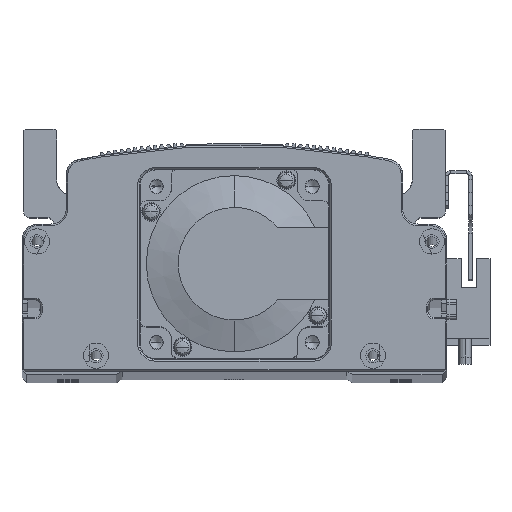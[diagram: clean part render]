
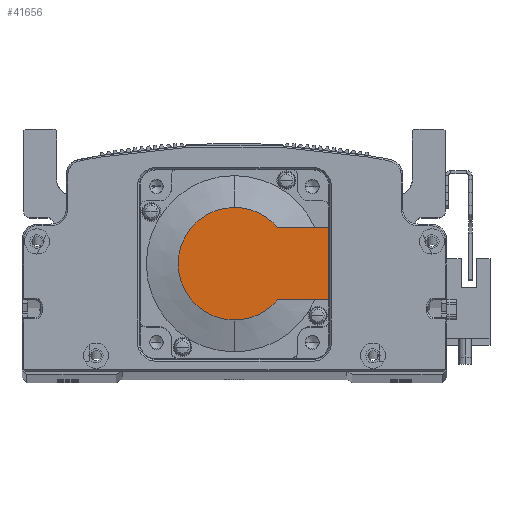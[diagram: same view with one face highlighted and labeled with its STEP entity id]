
A CAD part, top view. The second image highlights one B-rep face of the part: STEP entity #41656.
In plain terms, the highlighted planar face has unit normal (0, 0, 1) as drawn and (-1, 0, 0) by its records, which use the part's own axes.
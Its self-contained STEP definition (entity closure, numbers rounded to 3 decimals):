
#3310 = VERTEX_POINT ( 'NONE', #25634 ) ;
#3710 = VECTOR ( 'NONE', #53036, 1000. ) ;
#4571 = VERTEX_POINT ( 'NONE', #66932 ) ;
#4751 = CARTESIAN_POINT ( 'NONE',  ( -118.5, 0., 0. ) ) ;
#6743 = CARTESIAN_POINT ( 'NONE',  ( -118.5, 13.735, -11.45 ) ) ;
#8282 = DIRECTION ( 'NONE',  ( -1., 0., 0. ) ) ;
#8672 = CARTESIAN_POINT ( 'NONE',  ( -118.5, 0., 11.45 ) ) ;
#9836 = VECTOR ( 'NONE', #63504, 1000. ) ;
#10072 = DIRECTION ( 'NONE',  ( 0., 0., -1. ) ) ;
#11803 = FACE_OUTER_BOUND ( 'NONE', #71899, .T. ) ;
#13517 = ORIENTED_EDGE ( 'NONE', *, *, #58738, .F. ) ;
#15563 = EDGE_CURVE ( 'NONE', #44050, #61421, #50561, .T. ) ;
#16014 = PLANE ( 'NONE',  #18977 ) ;
#17468 = CARTESIAN_POINT ( 'NONE',  ( -118.5, 30., -11.45 ) ) ;
#18913 = VERTEX_POINT ( 'NONE', #26224 ) ;
#18977 = AXIS2_PLACEMENT_3D ( 'NONE', #54872, #56064, #55586 ) ;
#19378 = LINE ( 'NONE', #56987, #9836 ) ;
#24664 = ORIENTED_EDGE ( 'NONE', *, *, #64245, .T. ) ;
#24993 = CARTESIAN_POINT ( 'NONE',  ( -118.5, 0., 0. ) ) ;
#25275 = ORIENTED_EDGE ( 'NONE', *, *, #39746, .T. ) ;
#25403 = ORIENTED_EDGE ( 'NONE', *, *, #26142, .F. ) ;
#25634 = CARTESIAN_POINT ( 'NONE',  ( -118.5, 0., 17.881 ) ) ;
#26142 = EDGE_CURVE ( 'NONE', #44050, #18913, #19378, .T. ) ;
#26224 = CARTESIAN_POINT ( 'NONE',  ( -118.5, 30., 11.45 ) ) ;
#26476 = ORIENTED_EDGE ( 'NONE', *, *, #53275, .T. ) ;
#27746 = CIRCLE ( 'NONE', #43524, 17.881 ) ;
#31103 = CARTESIAN_POINT ( 'NONE',  ( -118.5, -8.941, -11.45 ) ) ;
#33043 = DIRECTION ( 'NONE',  ( -1., 0., 0. ) ) ;
#33336 = CARTESIAN_POINT ( 'NONE',  ( -118.5, 13.735, 11.45 ) ) ;
#35217 = VERTEX_POINT ( 'NONE', #33336 ) ;
#35280 = DIRECTION ( 'NONE',  ( 0., 0., -1. ) ) ;
#35739 = CARTESIAN_POINT ( 'NONE',  ( -118.5, 0., 0. ) ) ;
#39746 = EDGE_CURVE ( 'NONE', #3310, #35217, #27746, .T. ) ;
#41606 = DIRECTION ( 'NONE',  ( -1., 0., 0. ) ) ;
#41656 = ADVANCED_FACE ( 'NONE', ( #11803 ), #16014, .T. ) ;
#43524 = AXIS2_PLACEMENT_3D ( 'NONE', #4751, #33043, #10072 ) ;
#44050 = VERTEX_POINT ( 'NONE', #17468 ) ;
#46967 = ORIENTED_EDGE ( 'NONE', *, *, #15563, .T. ) ;
#47371 = AXIS2_PLACEMENT_3D ( 'NONE', #24993, #8282, #63614 ) ;
#49678 = AXIS2_PLACEMENT_3D ( 'NONE', #35739, #41606, #35280 ) ;
#50561 = LINE ( 'NONE', #31103, #3710 ) ;
#51893 = DIRECTION ( 'NONE',  ( 0., -1., 0. ) ) ;
#53036 = DIRECTION ( 'NONE',  ( 0., -1., 0. ) ) ;
#53275 = EDGE_CURVE ( 'NONE', #4571, #3310, #68829, .T. ) ;
#54872 = CARTESIAN_POINT ( 'NONE',  ( -118.5, -8.941, 0. ) ) ;
#55007 = CIRCLE ( 'NONE', #49678, 17.881 ) ;
#55586 = DIRECTION ( 'NONE',  ( 0., 0., 1. ) ) ;
#56064 = DIRECTION ( 'NONE',  ( -1., 0., 0. ) ) ;
#56987 = CARTESIAN_POINT ( 'NONE',  ( -118.5, 30., 25. ) ) ;
#58738 = EDGE_CURVE ( 'NONE', #18913, #35217, #67185, .T. ) ;
#61421 = VERTEX_POINT ( 'NONE', #6743 ) ;
#63504 = DIRECTION ( 'NONE',  ( 0., 0., 1. ) ) ;
#63614 = DIRECTION ( 'NONE',  ( 0., 0., -1. ) ) ;
#63726 = VECTOR ( 'NONE', #51893, 1000. ) ;
#64245 = EDGE_CURVE ( 'NONE', #61421, #4571, #55007, .T. ) ;
#66932 = CARTESIAN_POINT ( 'NONE',  ( -118.5, 0., -17.881 ) ) ;
#67185 = LINE ( 'NONE', #8672, #63726 ) ;
#68829 = CIRCLE ( 'NONE', #47371, 17.881 ) ;
#71899 = EDGE_LOOP ( 'NONE', ( #46967, #24664, #26476, #25275, #13517, #25403 ) ) ;
